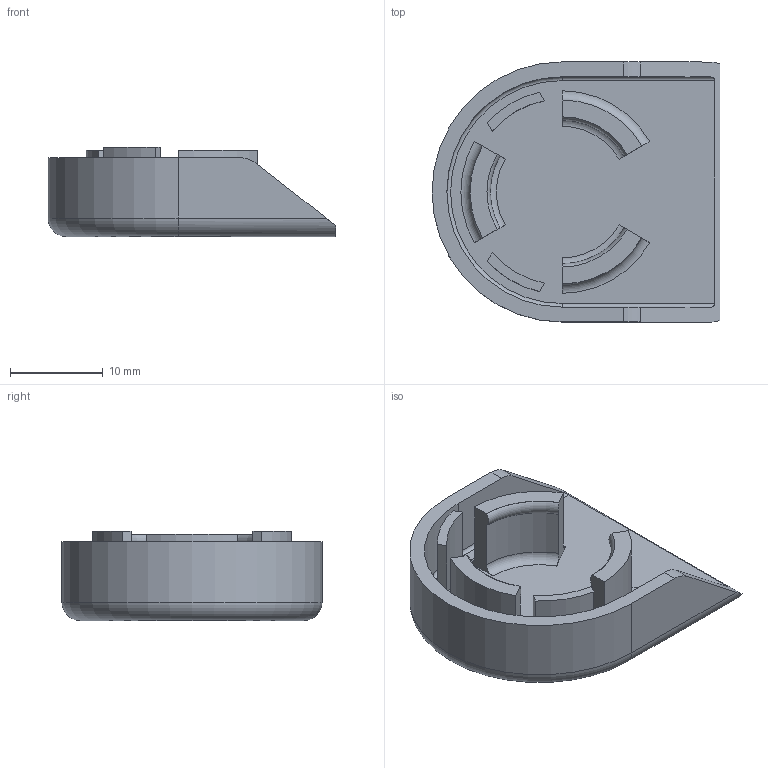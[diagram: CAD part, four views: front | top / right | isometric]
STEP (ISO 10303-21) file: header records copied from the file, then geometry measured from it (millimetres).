
FILE_DESCRIPTION(('STEP AP203'), '1');
FILE_NAME('Yaris 攜闉膻膱', '2021-03-26T11:28:18', ('Svoboda'), (''), 'ASCON STEP Converter 1.6', 'ASCON Math Kernel', '');
FILE_SCHEMA(('CONFIG_CONTROL_DESIGN'));
Length unit declared in the file: millimetre
Bounding box: 31 x 28 x 9.6 mm (x, y, z)
Volume: 2433.7 mm3; surface area: 3307.9 mm2
Topology: 1 solids, 1 shells, 56 faces, 143 edges, 94 vertices
Faces by surface type: plane 24, cylinder 21, torus 11
Entity records: 1758 total; most frequent: DIRECTION 319, CARTESIAN_POINT 306, ORIENTED_EDGE 286, EDGE_CURVE 143, AXIS2_PLACEMENT_3D 123, VERTEX_POINT 94, LINE 73, VECTOR 73
